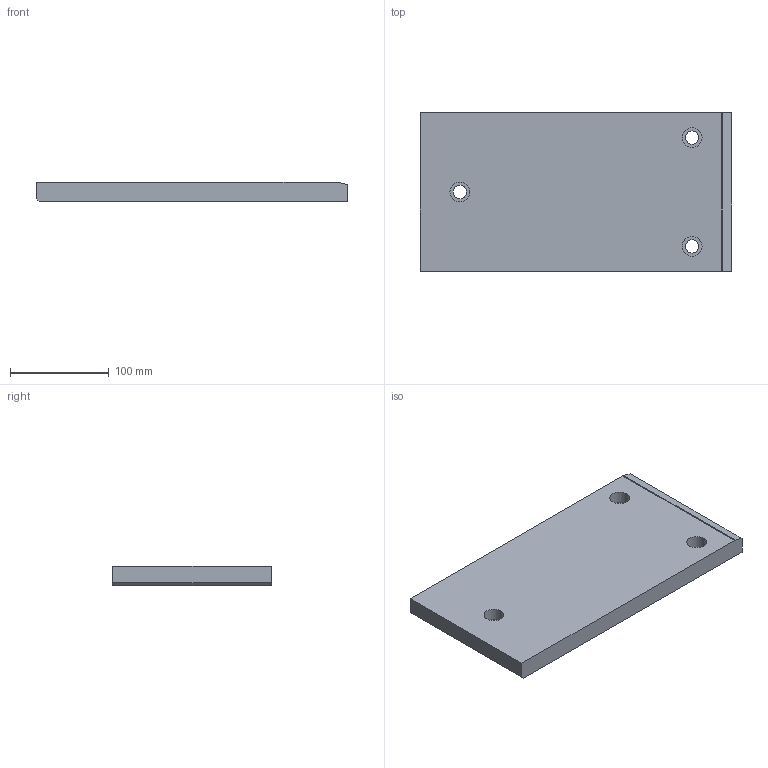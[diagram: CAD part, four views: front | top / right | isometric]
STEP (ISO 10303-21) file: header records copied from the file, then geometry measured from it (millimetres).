
FILE_DESCRIPTION (( 'STEP AP214' ), '1' );
FILE_NAME ('SW225-01-160x3151.STEP', '2020-10-21T10:43:47', ( 'August' ), ( '' ), 'SwSTEP 2.0', 'SolidWorks 2018', '' );
FILE_SCHEMA (( 'AUTOMOTIVE_DESIGN' ));
Length unit declared in the file: millimetre
Products named in the file (1): SW225-01-160x3151
Bounding box: 315 x 160 x 20 mm (x, y, z)
Volume: 989875.3 mm3; surface area: 121591.8 mm2
Topology: 1 solids, 1 shells, 24 faces, 57 edges, 38 vertices
Faces by surface type: cylinder 13, plane 11
Entity records: 753 total; most frequent: DIRECTION 133, CARTESIAN_POINT 120, ORIENTED_EDGE 114, EDGE_CURVE 57, AXIS2_PLACEMENT_3D 51, VERTEX_POINT 38, EDGE_LOOP 33, VECTOR 31
